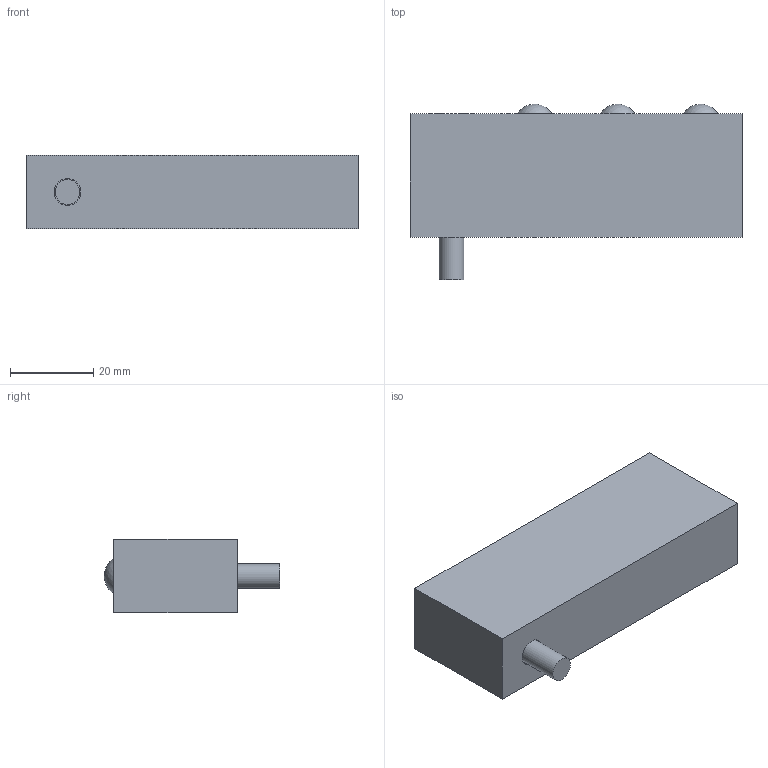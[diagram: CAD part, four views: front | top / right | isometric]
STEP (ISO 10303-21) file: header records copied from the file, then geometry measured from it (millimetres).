
FILE_DESCRIPTION(/* description */ (''),/* implementation_level */ '2;1');
FILE_NAME(/* name */ 'V:\Shrinkwrap\EMB\EMB - SHRINKWRAP\EMB18-3_Shrinkwrap_1.stp',/* time_stamp */ '2022-08-12T09:43:01+02:00',/* author */ ('cw'),/* organization */ (''),/* preprocessor_version */ 'ST-DEVELOPER v17',/* originating_system */ 'Autodesk Inventor 2019',/* authorisation */ '');
FILE_SCHEMA (('AUTOMOTIVE_DESIGN { 1 0 10303 214 3 1 1 }'));
Length unit declared in the file: millimetre
Products named in the file (1): EMB18-3_Shrinkwrap_1
Bounding box: 80 x 42.27 x 17.8 mm (x, y, z)
Volume: 41457.2 mm3; surface area: 10183.5 mm2
Topology: 1 solids, 1 shells, 17 faces, 31 edges, 25 vertices
Faces by surface type: plane 10, cylinder 4, sphere 3
Full cylindrical faces by diameter (mm): 6 x1, 6.5 x1, 10 x1, 11 x1
Entity records: 511 total; most frequent: DIRECTION 78, CARTESIAN_POINT 72, ORIENTED_EDGE 58, AXIS2_PLACEMENT_3D 31, EDGE_CURVE 29, EDGE_LOOP 24, VERTEX_POINT 21, STYLED_ITEM 20
